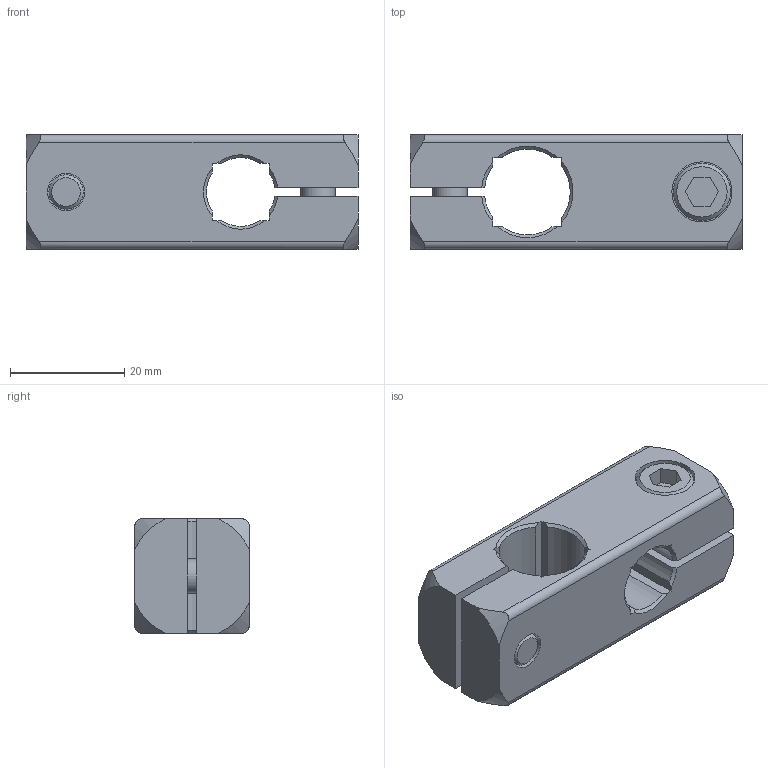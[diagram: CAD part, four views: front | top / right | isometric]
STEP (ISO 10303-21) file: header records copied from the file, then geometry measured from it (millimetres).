
FILE_DESCRIPTION( ( 'STEP AP203' ), '1' );
FILE_NAME( 'C:/Temp/Ganter_Step_05_03_2020/data/3_7/gn_474/Two-way clamp mounting GN 474-B15-B12-ELS.stp', '2020-03-12T14:44:49', ( 'License CC BY-ND 4.0' ), ( 'CADENAS' ), ' ', 'PARTsolutions', ' ' );
FILE_SCHEMA( ( 'CONFIG_CONTROL_DESIGN' ) );
Length unit declared in the file: millimetre
Products named in the file (1): _Two-way clamp mounting GN 474-B15-B12-ELS
Bounding box: 58 x 20 x 20 mm (x, y, z)
Volume: 15934.9 mm3; surface area: 9086.3 mm2
Topology: 1 solids, 1 shells, 106 faces, 280 edges, 186 vertices
Faces by surface type: plane 50, cone 32, cylinder 24
Full cylindrical faces by diameter (mm): 6 x2, 6.5 x4, 10 x2, 10.5 x2
Entity records: 3404 total; most frequent: CARTESIAN_POINT 843, ORIENTED_EDGE 528, DIRECTION 486, EDGE_CURVE 264, VERTEX_POINT 184, AXIS2_PLACEMENT_3D 179, EDGE_LOOP 134, LINE 128
